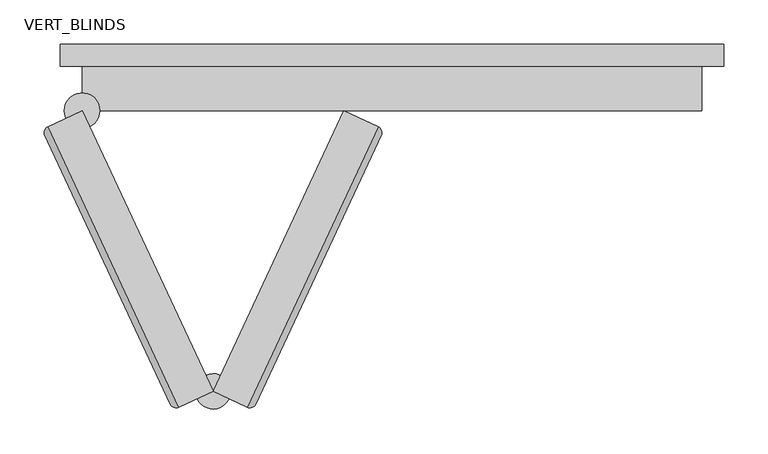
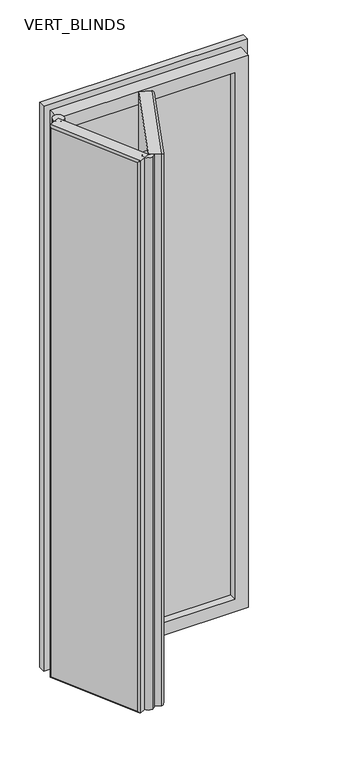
"""IFC4 building model written with IfcOpenShell, lengths in millimetres: plate geometry, CURTAIN PANEL VODA STYLE BIFOLDING : VERT_BLINDS."""

from ifc_helpers import new_model, si_unit, point, frame, frame_2d, origin, place, context, project, spatial, polyline, circle_curve, ellipse_curve, trimmed, segment, composite_curve, outline, extrude, faceted_brep, source, transform, mapped, element, save
from ifc_brep_helpers import plane_surface, cylinder_surface, advanced_brep


def vert_blinds_2d5f8e32(model_context):
    return source(origin(), model_context, "Body", "SolidModel", [
        advanced_brep(
        [(-350.0, -50.0, 2175.0), (-388.5180809, -67.9612761, 2175.0), (-240.6016893, -385.1690016, 2175.0), (-202.0836084, -367.2077255, 2175.0), (-202.0836084, -367.2077255, 25.0), (-240.6016893, -385.1690016, 25.0), (-388.5180809, -67.9612761, 25.0), (-350.0, -50.0, 25.0), (-392.1457524, -77.9282215, 32.5), (-250.5686347, -381.5413301, 32.5), (-250.5686347, -381.5413301, 2167.5), (-392.1457524, -77.9282215, 2167.5)],
        [
            (0, 1),
            (1, 2),
            (2, 3),
            (3, 0),
            (4, 5),
            (5, 6),
            (6, 7),
            (7, 4),
            (2, 5),
            (4, 3),
            (8, 9),
            (9, 10),
            (10, 11),
            (11, 8),
            (6, 1),
            (0, 7),
            (11, 1, ellipse_curve(frame((-385.348444, -74.7585845, 2167.5), z_axis=(-0.29883623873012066, 0.6408563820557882, -0.7071067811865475), x_axis=(0.2988362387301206, -0.6408563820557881, -0.7071067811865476)), 10.6066017, 7.5)),
            (6, 8, ellipse_curve(frame((-385.348444, -74.7585845, 32.5), z_axis=(-0.29883623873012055, 0.6408563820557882, 0.7071067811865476), x_axis=(-0.2988362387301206, 0.6408563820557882, -0.7071067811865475)), 10.6066017, 7.5)),
            (5, 9, ellipse_curve(frame((-243.7713263, -378.3716932, 32.5), z_axis=(-0.2988362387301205, 0.6408563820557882, -0.7071067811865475), x_axis=(0.29883623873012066, -0.6408563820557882, -0.7071067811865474)), 10.6066017, 7.5)),
            (2, 10, ellipse_curve(frame((-243.7713263, -378.3716932, 2167.5), z_axis=(0.29883623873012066, -0.6408563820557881, -0.7071067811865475), x_axis=(0.2988362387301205, -0.6408563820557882, 0.7071067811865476)), 10.6066017, 7.5)),
        ],
        [
            plane_surface(frame((-247.3989977, -388.3386385, 2175.0), z_axis=(0.0, 0.0, 1.0000000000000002), x_axis=(-0.9063077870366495, -0.42261826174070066, 0.0))),
            plane_surface(frame((-247.3989977, -388.3386385, 25.0), z_axis=(0.0, 0.0, -1.0000000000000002), x_axis=(0.9063077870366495, 0.42261826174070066, 0.0))),
            plane_surface(frame((-202.0836084, -367.2077255, 2175.0), z_axis=(0.42261826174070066, -0.9063077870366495, 0.0), x_axis=(0.0, 0.0, -1.0))),
            plane_surface(frame((-247.3989977, -388.3386385, 2175.0), z_axis=(-0.9063077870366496, -0.42261826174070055, 0.0), x_axis=(0.0, 0.0, -1.0))),
            plane_surface(frame((-395.3153894, -71.1309131, 2175.0), z_axis=(-0.4226182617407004, 0.9063077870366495, 0.0), x_axis=(0.0, 0.0, -1.0))),
            plane_surface(frame((-350.0, -50.0, 2175.0), z_axis=(0.9063077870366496, 0.42261826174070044, 0.0), x_axis=(0.0, 0.0, -1.0))),
            cylinder_surface(frame((-385.348444, -74.7585845, 2175.0), z_axis=(0.0, 0.0, -1.0), x_axis=(0.9063077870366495, 0.4226182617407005, 0.0)), 7.5),
            cylinder_surface(frame((-388.5180809, -67.9612761, 32.5), z_axis=(0.4226182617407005, -0.9063077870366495, 0.0), x_axis=(0.9063077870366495, 0.4226182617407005, 0.0)), 7.5),
            cylinder_surface(frame((-243.7713263, -378.3716932, 25.0), z_axis=(0.0, 0.0, 1.0000000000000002), x_axis=(0.9063077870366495, 0.4226182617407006, 0.0)), 7.5),
            cylinder_surface(frame((-240.6016893, -385.1690016, 2167.5), z_axis=(-0.4226182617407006, 0.9063077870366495, 0.0), x_axis=(0.9063077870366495, 0.4226182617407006, 0.0)), 7.5),
        ],
        [
            (0, [[1, 2, 3, 4]]),
            (1, [[5, 6, 7, 8]]),
            (2, [[-3, 9, -5, 10]]),
            (3, [[11, 12, 13, 14]]),
            (4, [[-7, 15, -1, 16]]),
            (5, [[-10, -8, -16, -4]]),
            (6, [[-14, 17, -15, 18]]),
            (7, [[-6, 19, -11, -18]]),
            (8, [[-9, 20, -12, -19]]),
            (9, [[-13, -20, -2, -17]]),
        ],
    ),
        advanced_brep(
        [(-202.0836084, -367.2077255, 2175.0), (-163.5655274, -385.1690016, 2175.0), (-15.6491358, -67.9612761, 2175.0), (-54.1672168, -50.0, 2175.0), (-54.1672168, -50.0, 25.0), (-15.6491358, -67.9612761, 25.0), (-163.5655274, -385.1690016, 25.0), (-202.0836084, -367.2077255, 25.0), (-153.5985821, -381.5413301, 32.5), (-12.0214644, -77.9282215, 32.5), (-12.0214644, -77.9282215, 2167.5), (-153.5985821, -381.5413301, 2167.5)],
        [
            (0, 1),
            (1, 2),
            (2, 3),
            (3, 0),
            (4, 5),
            (5, 6),
            (6, 7),
            (7, 4),
            (2, 5),
            (4, 3),
            (8, 9),
            (9, 10),
            (10, 11),
            (11, 8),
            (6, 1),
            (0, 7),
            (11, 1, ellipse_curve(frame((-160.3958905, -378.3716932, 2167.5), z_axis=(-0.29883623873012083, -0.6408563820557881, -0.7071067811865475), x_axis=(0.2988362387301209, 0.640856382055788, -0.7071067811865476)), 10.6066017, 7.5)),
            (6, 8, ellipse_curve(frame((-160.3958905, -378.3716932, 32.5), z_axis=(-0.2988362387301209, -0.640856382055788, 0.7071067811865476), x_axis=(-0.29883623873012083, -0.6408563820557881, -0.7071067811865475)), 10.6066017, 7.5)),
            (5, 9, ellipse_curve(frame((-18.8187728, -74.7585845, 32.5), z_axis=(-0.2988362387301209, -0.6408563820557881, -0.7071067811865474), x_axis=(0.2988362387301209, 0.640856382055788, -0.7071067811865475)), 10.6066017, 7.5)),
            (2, 10, ellipse_curve(frame((-18.8187728, -74.7585845, 2167.5), z_axis=(0.2988362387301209, 0.640856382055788, -0.7071067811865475), x_axis=(0.2988362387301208, 0.640856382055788, 0.7071067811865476)), 10.6066017, 7.5)),
        ],
        [
            plane_surface(frame((-8.8518274, -71.1309131, 2175.0), z_axis=(0.0, 0.0, 1.0), x_axis=(0.9063077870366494, -0.4226182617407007, 0.0))),
            plane_surface(frame((-8.8518274, -71.1309131, 25.0), z_axis=(0.0, 0.0, -1.0), x_axis=(-0.9063077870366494, 0.4226182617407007, 0.0))),
            plane_surface(frame((-54.1672168, -50.0, 2175.0), z_axis=(0.4226182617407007, 0.9063077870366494, 0.0), x_axis=(0.0, 0.0, -1.0))),
            plane_surface(frame((-8.8518274, -71.1309131, 2175.0), z_axis=(0.9063077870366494, -0.42261826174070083, 0.0), x_axis=(0.0, 0.0, -1.0))),
            plane_surface(frame((-156.768219, -388.3386385, 2175.0), z_axis=(-0.4226182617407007, -0.9063077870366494, 0.0), x_axis=(0.0, 0.0, -1.0))),
            plane_surface(frame((-202.0836084, -367.2077255, 2175.0), z_axis=(-0.9063077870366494, 0.42261826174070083, 0.0), x_axis=(0.0, 0.0, -1.0))),
            cylinder_surface(frame((-160.3958905, -378.3716932, 2175.0), z_axis=(0.0, 0.0, -1.0), x_axis=(-0.9063077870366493, 0.4226182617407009, 0.0)), 7.5),
            cylinder_surface(frame((-163.5655274, -385.1690016, 32.5), z_axis=(0.42261826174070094, 0.9063077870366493, 0.0), x_axis=(-0.9063077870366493, 0.42261826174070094, 0.0)), 7.5),
            cylinder_surface(frame((-18.8187728, -74.7585845, 25.0), z_axis=(0.0, 0.0, 1.0), x_axis=(-0.9063077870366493, 0.4226182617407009, 0.0)), 7.5),
            cylinder_surface(frame((-15.6491358, -67.9612761, 2167.5), z_axis=(-0.42261826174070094, -0.9063077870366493, 0.0), x_axis=(-0.9063077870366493, 0.42261826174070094, 0.0)), 7.5),
        ],
        [
            (0, [[1, 2, 3, 4]]),
            (1, [[5, 6, 7, 8]]),
            (2, [[-3, 9, -5, 10]]),
            (3, [[11, 12, 13, 14]]),
            (4, [[-7, 15, -1, 16]]),
            (5, [[-10, -8, -16, -4]]),
            (6, [[-14, 17, -15, 18]]),
            (7, [[-6, 19, -11, -18]]),
            (8, [[-9, 20, -12, -19]]),
            (9, [[-13, -20, -2, -17]]),
        ],
    ),
        extrude(outline(composite_curve([segment(trimmed(circle_curve(frame_2d((-350.0, -50.0)), 20.0), [point((-370.0, -50.0))], [point((-330.0, -50.0))], False, "CARTESIAN"), True, "CONTINUOUS"), segment(trimmed(circle_curve(frame_2d((-350.0, -50.0)), 20.0), [point((-330.0, -50.0))], [point((-370.0, -50.0))], False, "CARTESIAN"), True, "CONTINUOUS")], self_intersect=False)), frame((0.0, 0.0, 25.0), z_axis=(0.0, 0.0, 1.0), x_axis=(1.0, 0.0, 0.0)), (0.0, 0.0, 1.0), 2150.0),
        extrude(outline(composite_curve([segment(trimmed(circle_curve(frame_2d((-202.0836084, -367.2077255)), 20.0), [point((-210.5359736, -349.0815697))], [point((-193.6312432, -385.3338812))], False, "CARTESIAN"), True, "CONTINUOUS"), segment(trimmed(circle_curve(frame_2d((-202.0836084, -367.2077255)), 20.0), [point((-193.6312432, -385.3338812))], [point((-210.5359736, -349.0815697))], False, "CARTESIAN"), True, "CONTINUOUS")], self_intersect=False)), frame((0.0, 0.0, 25.0), z_axis=(0.0, 0.0, 1.0), x_axis=(1.0, 0.0, 0.0)), (0.0, 0.0, 1.0), 2150.0),
        extrude(outline(polyline([(-300.0, -24.0), (-300.0, 0.0), (300.0, 0.0), (300.0, -24.0), (-300.0, -24.0)])), frame((0.0, 0.0, 75.0), z_axis=(0.0, 0.0, 1.0), x_axis=(1.0, 0.0, 0.0)), (0.0, 0.0, 1.0), 2050.0),
        faceted_brep([(-300.0, -50.0, 2125.0), (-300.0, -50.0, 75.0), (-300.0, 25.0, 75.0), (-300.0, 25.0, 2125.0), (-375.0, 25.0, 2200.0), (-375.0, 25.0, 0.0), (-375.0, 0.0, 0.0), (-375.0, 0.0, 2200.0), (-350.0, 0.0, 2175.0), (-350.0, 0.0, 25.0), (-350.0, -50.0, 25.0), (-350.0, -50.0, 2175.0), (300.0, -50.0, 75.0), (300.0, 25.0, 75.0), (375.0, 25.0, 0.0), (375.0, 0.0, 0.0), (350.0, 0.0, 25.0), (350.0, -50.0, 25.0), (300.0, -50.0, 2125.0), (300.0, 25.0, 2125.0), (375.0, 25.0, 2200.0), (375.0, 0.0, 2200.0), (350.0, 0.0, 2175.0), (350.0, -50.0, 2175.0)], [[[0, 1, 2, 3]], [[4, 5, 6, 7]], [[8, 9, 10, 11]], [[1, 12, 13, 2]], [[5, 14, 15, 6]], [[9, 16, 17, 10]], [[12, 18, 19, 13]], [[14, 20, 21, 15]], [[16, 22, 23, 17]], [[11, 10, 17, 23], [1, 0, 18, 12]], [[18, 0, 3, 19]], [[5, 4, 20, 14], [3, 2, 13, 19]], [[20, 4, 7, 21]], [[7, 6, 15, 21], [9, 8, 22, 16]], [[22, 8, 11, 23]]]),
    ])


if __name__ == "__main__":
    model = new_model("IFC4")
    model_context = context("Model", 3, world=origin())
    ifc_project = project(units=[si_unit("LENGTHUNIT", "METRE", prefix="MILLI")], contexts=[model_context])
    site = spatial("IfcSite", under=ifc_project)
    building = spatial("IfcBuilding", under=site)
    placement = place(None, origin())
    vert_blinds_shape = vert_blinds_2d5f8e32(model_context)
    element("IfcPlate", 1, ObjectType="CURTAIN PANEL VODA STYLE BIFOLDING : VERT_BLINDS", at=placement, inside=building, context=model_context, shape_type="MappedRepresentation", body=[
        mapped(vert_blinds_shape, transform((0.0, 0.0, 0.0), x_axis=(1.0, 0.0, 0.0), y_axis=(0.0, 1.0, 0.0), z_axis=(0.0, 0.0, 1.0))),
    ])
    save(model, "model.ifc")
